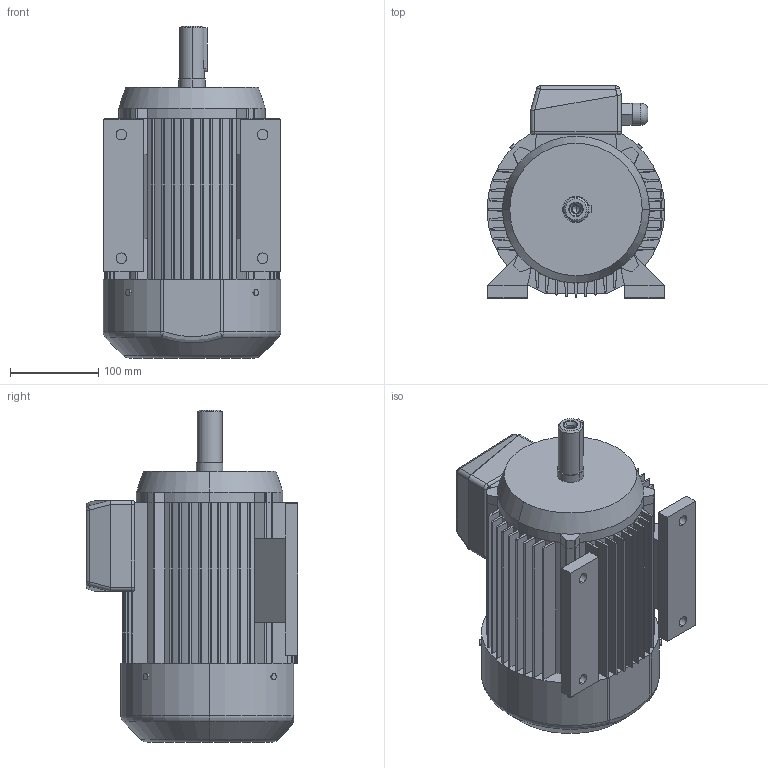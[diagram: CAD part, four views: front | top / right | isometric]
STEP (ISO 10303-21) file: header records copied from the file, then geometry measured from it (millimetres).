
FILE_DESCRIPTION (( 'STEP AP203' ), '1' );
FILE_NAME ('Sg 100L-B3.STEP', '2010-01-08T13:23:41', ( 'INDUKTA' ), ( 'CANTONI MOTOR' ), 'SwSTEP 2.0', 'SolidWorks 2003064', '' );
FILE_SCHEMA (( 'CONFIG_CONTROL_DESIGN' ));
Length unit declared in the file: millimetre
Products named in the file (1): Sg 100L-B3
Bounding box: 201.5 x 240 x 376 mm (x, y, z)
Volume: 8758708.1 mm3; surface area: 622477.7 mm2
Topology: 13 solids, 13 shells, 518 faces, 1379 edges, 890 vertices
Faces by surface type: plane 259, cylinder 185, bspline 43, cone 14, torus 11, sphere 6
Entity records: 19441 total; most frequent: CARTESIAN_POINT 6570, ORIENTED_EDGE 2742, DIRECTION 2585, EDGE_CURVE 1371, VERTEX_POINT 890, LINE 867, VECTOR 867, AXIS2_PLACEMENT_3D 859
